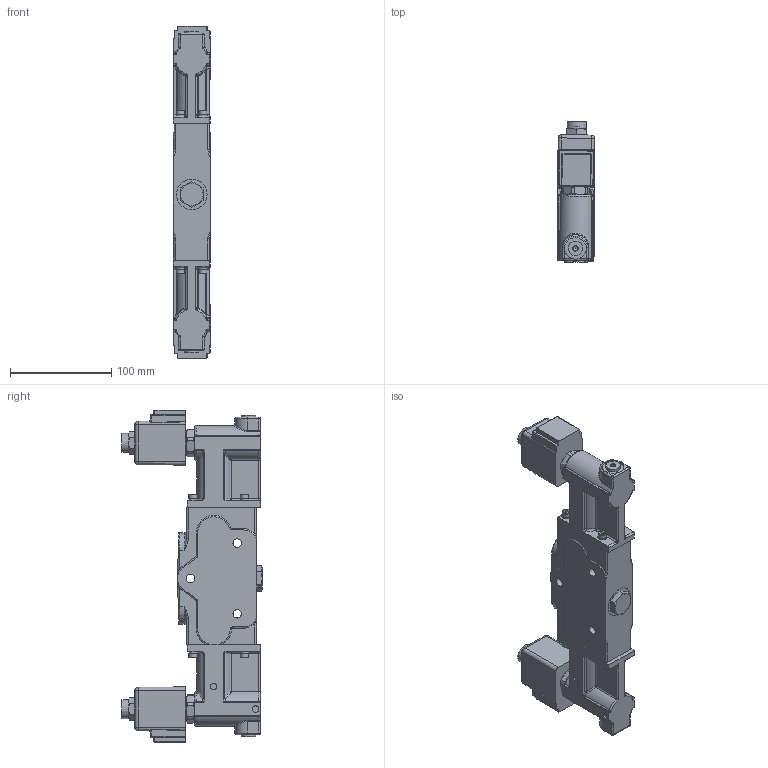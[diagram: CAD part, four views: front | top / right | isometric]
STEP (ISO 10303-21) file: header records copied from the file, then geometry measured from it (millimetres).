
FILE_DESCRIPTION(/* description */ (''),/* implementation_level */ '2;1');
FILE_NAME(/* name */ 'C:\Users\petersw\Desktop\SVW1xA-Txxx_(SVW1BA-Txxx).stp',/* time_stamp */ '2014-08-07T09:18:14-05:00',/* author */ ('PetersW'),/* organization */ ('PRINCE MANUFACTURING'),/* preprocessor_version */ 'ST-DEVELOPER v15.2',/* originating_system */ 'Autodesk Inventor 2014',/* authorisation */ '0 in^3');
FILE_SCHEMA (('AUTOMOTIVE_DESIGN { 1 0 10303 214 3 1 1 }'));
Length unit declared in the file: inch
Products named in the file (1): SVW1AA-Txxx_Shell
Bounding box: 36.92 x 138.53 x 327.86 mm (x, y, z)
Volume: 791890.5 mm3; surface area: 134324.7 mm2
Topology: 1 solids, 38 shells, 1099 faces, 2666 edges, 1592 vertices
Faces by surface type: plane 441, cylinder 312, bspline 126, cone 96, torus 88, sphere 36
Full cylindrical faces by diameter (mm): 3.454 x2, 3.683 x4, 3.861 x3, 4.75 x8, 4.775 x2, 4.978 x2, 5.055 x8, 6.35 x4, 7.925 x8, 8.331 x5, 8.801 x4, 9.246 x4, 9.881 x2, 10.439 x2, 11.112 x2, 11.328 x2, 12.763 x1, 14.3 x2, 14.859 x2, 15.875 x1, 15.9 x2, 16.002 x2, 16.256 x2, 16.751 x1, 17.501 x2, 18.796 x2, 19.545 x4, 20.955 x2, 21.285 x2, 22.225 x4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
Entity records: 33683 total; most frequent: CARTESIAN_POINT 9180, DIRECTION 4870, ORIENTED_EDGE 4614, EDGE_CURVE 2301, AXIS2_PLACEMENT_3D 1959, VERTEX_POINT 1485, EDGE_LOOP 1348, STYLED_ITEM 1095
